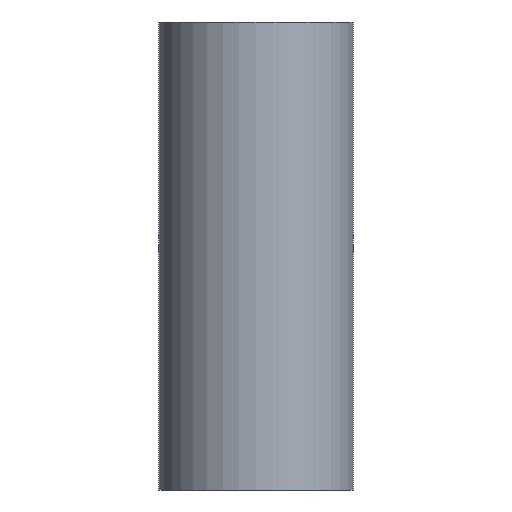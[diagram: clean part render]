
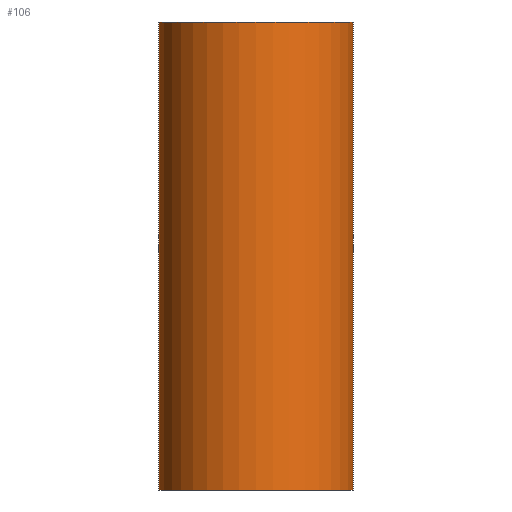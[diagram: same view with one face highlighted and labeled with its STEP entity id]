
A CAD part, left-side view. The second image highlights one B-rep face of the part: STEP entity #106.
In plain terms, the highlighted cylindrical face has radius 62.5 mm (diameter 125 mm), a full revolution.
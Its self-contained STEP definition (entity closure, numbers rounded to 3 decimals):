
#23=FACE_BOUND('',#47,.T.);
#24=FACE_BOUND('',#48,.T.);
#27=B_SPLINE_CURVE_WITH_KNOTS('',3,(#269,#270,#271,#272,#273,#274,#275,
#276,#277,#278,#279,#280,#281,#282,#283,#284,#285,#286,#287,#288,#289,#290,
#291,#292,#293,#294,#295,#296,#297,#298,#299,#300,#301,#302,#303,#304,#305,
#306,#307,#308,#309,#310,#311,#312,#313,#314,#315,#316,#317,#318,#319,#320,
#321,#322,#323,#324,#325,#326,#327,#328,#329,#330,#331,#332,#333,#334,#335,
#336,#337,#338,#339,#340,#341,#342,#343,#344,#345,#346,#347,#348,#349,#350,
#351,#352,#353,#354,#355,#356,#357,#358),.UNSPECIFIED.,.T.,.F.,(4,2,2,2,
2,2,2,2,2,2,2,2,2,2,2,2,2,2,2,2,2,2,2,2,2,2,2,2,2,2,2,2,2,2,2,2,2,2,2,2,
2,2,2,2,4),(0.,1.622,3.244,5.176,7.107,
9.039,10.972,11.467,11.961,12.456,
12.951,13.446,13.941,14.436,14.93,
16.863,18.795,20.727,22.658,24.28,
25.902,26.457,27.013,27.568,28.123,
28.627,29.131,29.635,30.139,31.228,
32.318,33.407,34.496,35.585,36.675,
37.764,38.853,39.357,39.861,40.365,
40.869,41.424,41.98,42.535,43.09),
 .UNSPECIFIED.);
#33=FACE_OUTER_BOUND('',#46,.T.);
#46=EDGE_LOOP('',(#84));
#47=EDGE_LOOP('',(#85));
#48=EDGE_LOOP('',(#86));
#55=CIRCLE('',#137,62.5);
#56=CIRCLE('',#139,62.5);
#62=VERTEX_POINT('',#268);
#63=VERTEX_POINT('',#361);
#64=VERTEX_POINT('',#364);
#70=EDGE_CURVE('',#62,#62,#27,.T.);
#71=EDGE_CURVE('',#63,#63,#55,.T.);
#72=EDGE_CURVE('',#64,#64,#56,.T.);
#84=ORIENTED_EDGE('',*,*,#71,.T.);
#85=ORIENTED_EDGE('',*,*,#70,.T.);
#86=ORIENTED_EDGE('',*,*,#72,.F.);
#92=CYLINDRICAL_SURFACE('',#138,62.5);
#106=ADVANCED_FACE('',(#33,#23,#24),#92,.T.);
#137=AXIS2_PLACEMENT_3D('',#362,#161,#162);
#138=AXIS2_PLACEMENT_3D('',#363,#163,#164);
#139=AXIS2_PLACEMENT_3D('',#365,#165,#166);
#161=DIRECTION('center_axis',(0.,0.,-1.));
#162=DIRECTION('ref_axis',(1.,0.,0.));
#163=DIRECTION('center_axis',(0.,0.,-1.));
#164=DIRECTION('ref_axis',(-1.,0.,0.));
#165=DIRECTION('center_axis',(0.,0.,-1.));
#166=DIRECTION('ref_axis',(1.,0.,0.));
#268=CARTESIAN_POINT('',(29.686,-55.,129.686));
#269=CARTESIAN_POINT('Ctrl Pts',(29.686,-55.,129.686));
#270=CARTESIAN_POINT('Ctrl Pts',(29.686,-55.,135.093));
#271=CARTESIAN_POINT('Ctrl Pts',(30.441,-54.601,140.927));
#272=CARTESIAN_POINT('Ctrl Pts',(32.669,-53.297,152.448));
#273=CARTESIAN_POINT('Ctrl Pts',(34.129,-52.388,158.138));
#274=CARTESIAN_POINT('Ctrl Pts',(37.271,-50.214,169.35));
#275=CARTESIAN_POINT('Ctrl Pts',(39.327,-48.66,175.939));
#276=CARTESIAN_POINT('Ctrl Pts',(43.598,-44.873,188.861));
#277=CARTESIAN_POINT('Ctrl Pts',(45.807,-42.634,195.195));
#278=CARTESIAN_POINT('Ctrl Pts',(49.825,-37.861,206.461));
#279=CARTESIAN_POINT('Ctrl Pts',(52.029,-34.879,212.489));
#280=CARTESIAN_POINT('Ctrl Pts',(56.195,-27.672,223.699));
#281=CARTESIAN_POINT('Ctrl Pts',(58.155,-23.452,228.886));
#282=CARTESIAN_POINT('Ctrl Pts',(60.051,-17.371,233.875));
#283=CARTESIAN_POINT('Ctrl Pts',(60.432,-16.014,234.874));
#284=CARTESIAN_POINT('Ctrl Pts',(61.127,-13.114,236.695));
#285=CARTESIAN_POINT('Ctrl Pts',(61.441,-11.57,237.517));
#286=CARTESIAN_POINT('Ctrl Pts',(61.959,-8.365,238.87));
#287=CARTESIAN_POINT('Ctrl Pts',(62.163,-6.7,239.402));
#288=CARTESIAN_POINT('Ctrl Pts',(62.433,-3.342,240.108));
#289=CARTESIAN_POINT('Ctrl Pts',(62.5,-1.649,240.282));
#290=CARTESIAN_POINT('Ctrl Pts',(62.5,1.649,240.282));
#291=CARTESIAN_POINT('Ctrl Pts',(62.433,3.342,240.108));
#292=CARTESIAN_POINT('Ctrl Pts',(62.163,6.7,239.402));
#293=CARTESIAN_POINT('Ctrl Pts',(61.959,8.365,238.87));
#294=CARTESIAN_POINT('Ctrl Pts',(61.441,11.57,237.517));
#295=CARTESIAN_POINT('Ctrl Pts',(61.127,13.114,236.695));
#296=CARTESIAN_POINT('Ctrl Pts',(60.432,16.014,234.874));
#297=CARTESIAN_POINT('Ctrl Pts',(60.051,17.371,233.875));
#298=CARTESIAN_POINT('Ctrl Pts',(58.155,23.452,228.886));
#299=CARTESIAN_POINT('Ctrl Pts',(56.195,27.672,223.699));
#300=CARTESIAN_POINT('Ctrl Pts',(52.029,34.879,212.489));
#301=CARTESIAN_POINT('Ctrl Pts',(49.825,37.861,206.461));
#302=CARTESIAN_POINT('Ctrl Pts',(45.807,42.634,195.195));
#303=CARTESIAN_POINT('Ctrl Pts',(43.598,44.873,188.861));
#304=CARTESIAN_POINT('Ctrl Pts',(39.327,48.66,175.939));
#305=CARTESIAN_POINT('Ctrl Pts',(37.271,50.214,169.35));
#306=CARTESIAN_POINT('Ctrl Pts',(34.129,52.388,158.138));
#307=CARTESIAN_POINT('Ctrl Pts',(32.669,53.297,152.448));
#308=CARTESIAN_POINT('Ctrl Pts',(30.441,54.601,140.927));
#309=CARTESIAN_POINT('Ctrl Pts',(29.686,55.,135.093));
#310=CARTESIAN_POINT('Ctrl Pts',(29.686,55.,127.835));
#311=CARTESIAN_POINT('Ctrl Pts',(29.773,54.953,125.898));
#312=CARTESIAN_POINT('Ctrl Pts',(30.21,54.714,122.001));
#313=CARTESIAN_POINT('Ctrl Pts',(30.561,54.522,120.041));
#314=CARTESIAN_POINT('Ctrl Pts',(31.558,53.95,116.241));
#315=CARTESIAN_POINT('Ctrl Pts',(32.207,53.57,114.398));
#316=CARTESIAN_POINT('Ctrl Pts',(33.744,52.616,110.944));
#317=CARTESIAN_POINT('Ctrl Pts',(34.63,52.041,109.332));
#318=CARTESIAN_POINT('Ctrl Pts',(36.409,50.81,106.542));
#319=CARTESIAN_POINT('Ctrl Pts',(37.356,50.124,105.239));
#320=CARTESIAN_POINT('Ctrl Pts',(39.374,48.555,102.753));
#321=CARTESIAN_POINT('Ctrl Pts',(40.443,47.673,101.569));
#322=CARTESIAN_POINT('Ctrl Pts',(42.607,45.75,99.356));
#323=CARTESIAN_POINT('Ctrl Pts',(43.701,44.708,98.327));
#324=CARTESIAN_POINT('Ctrl Pts',(45.825,42.528,96.437));
#325=CARTESIAN_POINT('Ctrl Pts',(46.855,41.39,95.577));
#326=CARTESIAN_POINT('Ctrl Pts',(49.892,37.782,93.135));
#327=CARTESIAN_POINT('Ctrl Pts',(51.921,34.975,91.655));
#328=CARTESIAN_POINT('Ctrl Pts',(55.572,28.823,89.112));
#329=CARTESIAN_POINT('Ctrl Pts',(57.194,25.479,88.049));
#330=CARTESIAN_POINT('Ctrl Pts',(59.827,18.466,86.361));
#331=CARTESIAN_POINT('Ctrl Pts',(60.841,14.792,85.734));
#332=CARTESIAN_POINT('Ctrl Pts',(62.178,7.374,84.913));
#333=CARTESIAN_POINT('Ctrl Pts',(62.5,3.631,84.718));
#334=CARTESIAN_POINT('Ctrl Pts',(62.5,-3.631,84.718));
#335=CARTESIAN_POINT('Ctrl Pts',(62.178,-7.374,84.913));
#336=CARTESIAN_POINT('Ctrl Pts',(60.841,-14.792,85.734));
#337=CARTESIAN_POINT('Ctrl Pts',(59.827,-18.466,86.361));
#338=CARTESIAN_POINT('Ctrl Pts',(57.194,-25.479,88.049));
#339=CARTESIAN_POINT('Ctrl Pts',(55.572,-28.823,89.112));
#340=CARTESIAN_POINT('Ctrl Pts',(51.921,-34.975,91.655));
#341=CARTESIAN_POINT('Ctrl Pts',(49.892,-37.782,93.135));
#342=CARTESIAN_POINT('Ctrl Pts',(46.855,-41.39,95.577));
#343=CARTESIAN_POINT('Ctrl Pts',(45.825,-42.528,96.437));
#344=CARTESIAN_POINT('Ctrl Pts',(43.701,-44.708,98.327));
#345=CARTESIAN_POINT('Ctrl Pts',(42.607,-45.75,99.356));
#346=CARTESIAN_POINT('Ctrl Pts',(40.443,-47.673,101.569));
#347=CARTESIAN_POINT('Ctrl Pts',(39.374,-48.555,102.753));
#348=CARTESIAN_POINT('Ctrl Pts',(37.356,-50.124,105.239));
#349=CARTESIAN_POINT('Ctrl Pts',(36.409,-50.81,106.542));
#350=CARTESIAN_POINT('Ctrl Pts',(34.63,-52.041,109.332));
#351=CARTESIAN_POINT('Ctrl Pts',(33.744,-52.616,110.944));
#352=CARTESIAN_POINT('Ctrl Pts',(32.207,-53.57,114.398));
#353=CARTESIAN_POINT('Ctrl Pts',(31.558,-53.95,116.241));
#354=CARTESIAN_POINT('Ctrl Pts',(30.561,-54.522,120.041));
#355=CARTESIAN_POINT('Ctrl Pts',(30.21,-54.714,122.001));
#356=CARTESIAN_POINT('Ctrl Pts',(29.773,-54.953,125.898));
#357=CARTESIAN_POINT('Ctrl Pts',(29.686,-55.,127.835));
#358=CARTESIAN_POINT('Ctrl Pts',(29.686,-55.,129.686));
#361=CARTESIAN_POINT('',(-62.5,0.,300.));
#362=CARTESIAN_POINT('Origin',(0.,0.,300.));
#363=CARTESIAN_POINT('Origin',(0.,0.,150.));
#364=CARTESIAN_POINT('',(-62.5,0.,0.));
#365=CARTESIAN_POINT('Origin',(0.,0.,0.));
